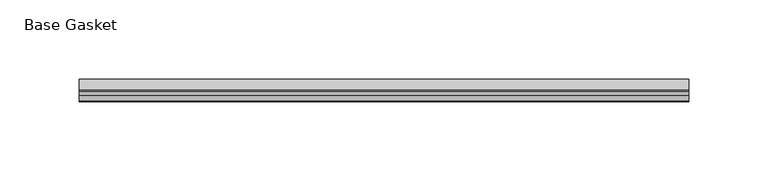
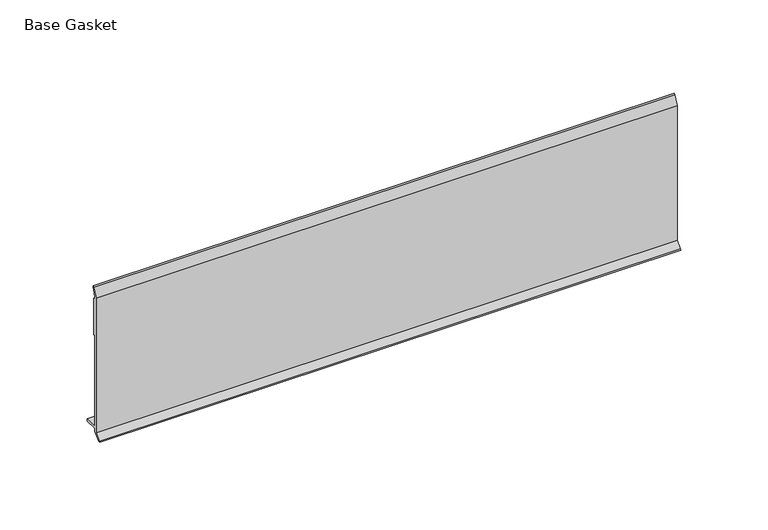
"""IFC4 building model written with IfcOpenShell, lengths in millimetres: furniture geometry, Gasket-Teknion-FHGB-AI_Healthcare-R2021 : Base Gasket."""

from ifc_helpers import new_model, si_unit, frame, origin, place, context, project, spatial, polyline, outline, extrude, source, transform, mapped, element, save


def base_gasket_43bbc6c9(model_context):
    return source(origin(), model_context, "Body", "SweptSolid", [
        extrude(outline(polyline([(-3.7283812, 98.4568417), (-1.1891543, 104.587663), (-0.6755308, 105.2002997), (-0.6755308, 104.4162708), (-2.2043812, 98.4568417), (-2.2043812, 96.8693477), (-1.4106313, 96.8693477), (-1.4106313, 71.4693447), (-2.2043812, 71.4693447), (-2.2043812, 7.9398773), (6.2405171, 7.9398773), (6.2405171, 6.3818476), (-2.1334222, 6.3818476), (-2.2043812, 4.3498477), (-6.8281054, 0.3520979), (-7.8482342, 0.0), (-7.4222115, 0.6560174), (-3.7283812, 4.3498477), (-3.7283812, 98.4568417)])), frame((-1527.8982117, 0.0, 0.0), z_axis=(1.0, 0.0, 0.0), x_axis=(0.0, 1.0, 0.0)), (0.0, 0.0, 1.0), 384.242247),
    ])


if __name__ == "__main__":
    model = new_model("IFC4")
    model_context = context("Model", 3, world=origin())
    ifc_project = project(units=[si_unit("LENGTHUNIT", "METRE", prefix="MILLI")], contexts=[model_context])
    site = spatial("IfcSite", under=ifc_project)
    building = spatial("IfcBuilding", under=site)
    placement = place(None, origin())
    base_gasket_shape = base_gasket_43bbc6c9(model_context)
    element("IfcFurniture", 1, ObjectType="Gasket-Teknion-FHGB-AI_Healthcare-R2021 : Base Gasket", at=placement, inside=building, context=model_context, shape_type="MappedRepresentation", body=[
        mapped(base_gasket_shape, transform((0.0, 0.0, 0.0), x_axis=(1.0, 0.0, 0.0), y_axis=(0.0, 1.0, 0.0), z_axis=(0.0, 0.0, 1.0))),
    ])
    save(model, "model.ifc")
